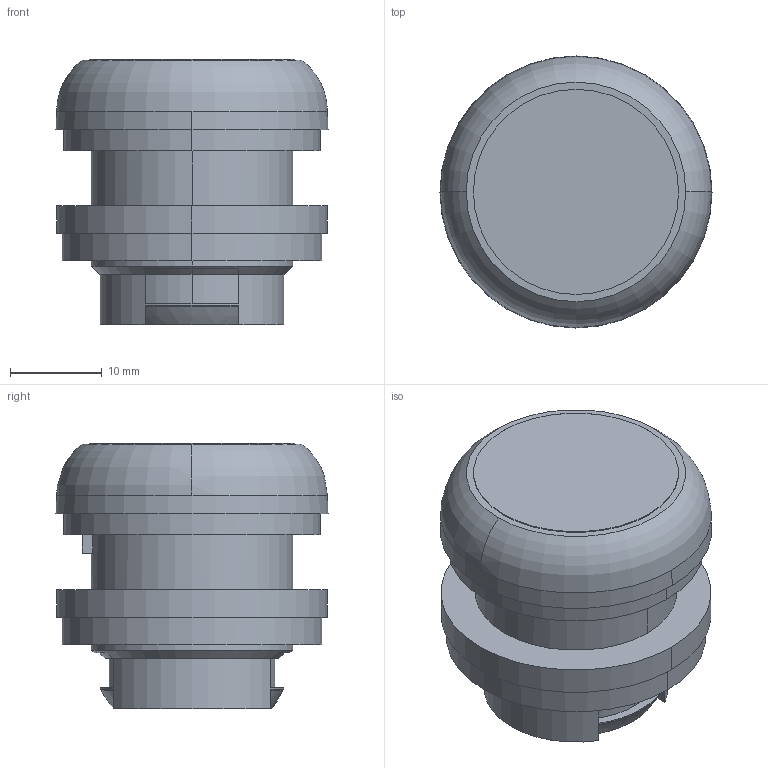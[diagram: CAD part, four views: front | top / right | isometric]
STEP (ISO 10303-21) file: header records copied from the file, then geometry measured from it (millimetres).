
FILE_DESCRIPTION( ( '' ), '1' );
FILE_NAME( '//expscmdclustefs.cadenas.external/client_exchange/iodir/jobs/output/wkb45397800_no0/STEP/216596_2_03.stp', '2012-05-29T13:20:10', ( '' ), ( '' ), ' ', ' ', ' ' );
FILE_SCHEMA( ( 'CONFIG_CONTROL_DESIGN' ) );
Length unit declared in the file: millimetre
Products named in the file (1): 1
Bounding box: 29.7 x 29.7 x 29 mm (x, y, z)
Volume: 14625.3 mm3; surface area: 4146.4 mm2
Topology: 1 solids, 1 shells, 66 faces, 170 edges, 112 vertices
Faces by surface type: plane 31, cylinder 18, cone 12, torus 5
Entity records: 2104 total; most frequent: CARTESIAN_POINT 415, DIRECTION 366, ORIENTED_EDGE 340, EDGE_CURVE 170, AXIS2_PLACEMENT_3D 147, VERTEX_POINT 112, CIRCLE 78, EDGE_LOOP 72
